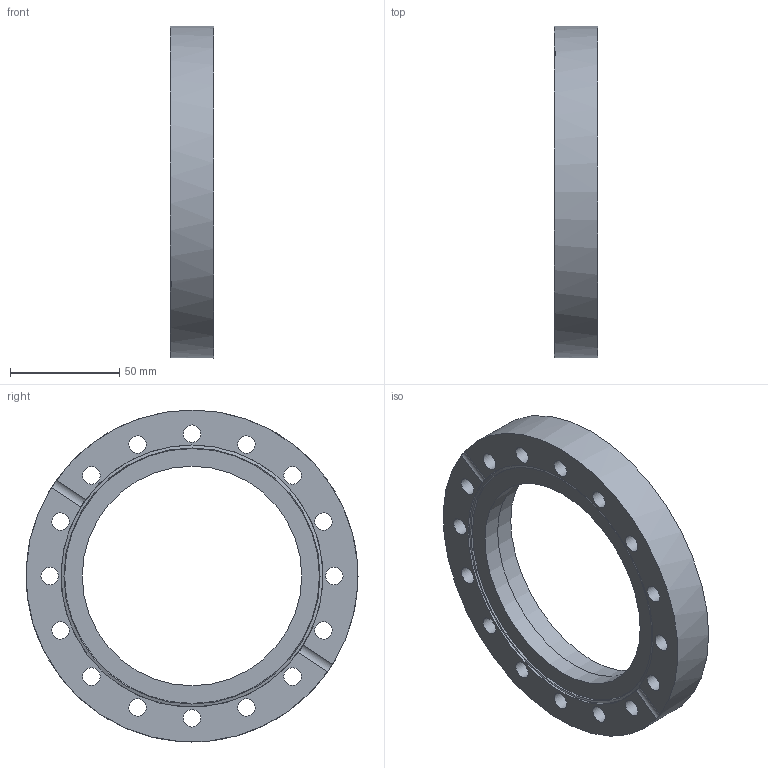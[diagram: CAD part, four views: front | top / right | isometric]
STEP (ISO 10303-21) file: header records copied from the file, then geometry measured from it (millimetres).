
FILE_DESCRIPTION( ( 'Unknown' ), '1' );
FILE_NAME( 'X:/Daten ( aktueller Bestand )/Projekte und Zeichnungen/Solid Edge/STP-Dateien/CF-Teile/7514FG4.stp', 'Unknown', ( 'Unknown' ), ( 'Unknown' ), 'PSStep 14.0', 'Unknown', ' ' );
FILE_SCHEMA( ( 'AUTOMOTIVE_DESIGN { 1 0 10303 214 1 1 1 1 }' ) );
Length unit declared in the file: millimetre
Products named in the file (1): 1
Bounding box: 19.9 x 152 x 152 mm (x, y, z)
Volume: 176741.9 mm3; surface area: 42939.2 mm2
Topology: 1 solids, 1 shells, 29 faces, 92 edges, 66 vertices
Faces by surface type: cylinder 22, plane 5, cone 2
Full cylindrical faces by diameter (mm): 8 x16, 100.5 x1, 104.3 x1, 120 x1, 152 x1
Entity records: 1166 total; most frequent: CARTESIAN_POINT 198, DIRECTION 152, ORIENTED_EDGE 104, EDGE_LOOP 86, AXIS2_PLACEMENT_3D 74, EDGE_CURVE 52, FACE_OUTER_BOUND 49, VERTEX_POINT 48
